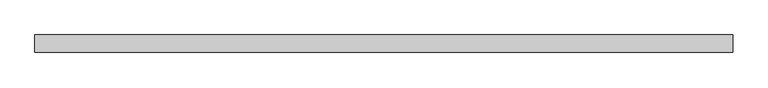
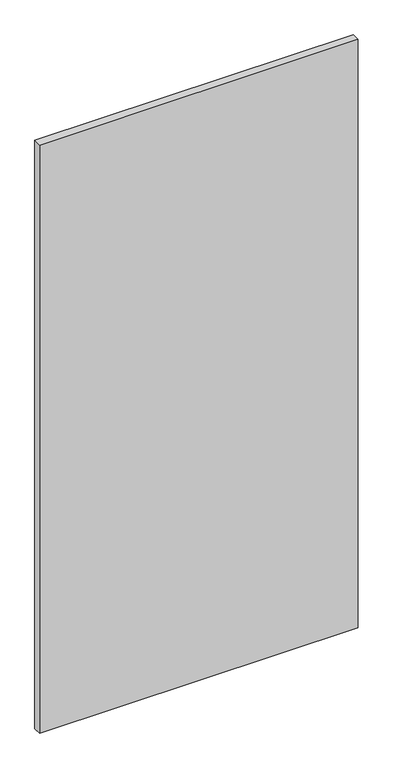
"""IFC4 building model written with IfcOpenShell, lengths in millimetres: plate geometry, Системная панель : С остеклением."""

import ifcopenshell
import ifcopenshell.guid

model = None  # the IFC model being written
_history = None  # IfcOwnerHistory: only IFC2X3 demands one
_inside = {}  # id of a spatial element -> (the spatial element, [elements in it])
_under = {}  # id of a project, library or spatial element -> (it, [spatial elements below it])
_declared = {}  # id of a project -> (the project, [libraries it declares])
_typed = {}  # id of a type object -> (the type object, [elements of that type])
_made_of = {}  # id of a material, layer set ... -> (it, [elements and type objects made of it])


def new_model(schema):
    """Start an empty IFC model of exactly this schema.

    Asked for "IFC4X3", IfcOpenShell would pick the latest addendum, in which some entities
    have other attributes; the version numbers below select the first issue.
    IFC2X3 requires an IfcOwnerHistory on every rooted entity: one is made here for all.
    """
    global model, _history
    if schema == "IFC4X3":
        model = ifcopenshell.file(schema_version=(4, 3, 0, 0))
    else:
        model = ifcopenshell.file(schema=schema)
    _inside.clear()
    _under.clear()
    _declared.clear()
    _typed.clear()
    _made_of.clear()
    _history = None
    if model.schema == "IFC2X3":
        org = make("IfcOrganization", Name="unknown")
        user = make(
            "IfcPersonAndOrganization",
            ThePerson=make("IfcPerson", FamilyName="unknown"),
            TheOrganization=org,
        )
        app = make(
            "IfcApplication",
            ApplicationDeveloper=org,
            Version="unknown",
            ApplicationFullName="unknown",
            ApplicationIdentifier="unknown",
        )
        _history = make(
            "IfcOwnerHistory",
            OwningUser=user,
            OwningApplication=app,
            ChangeAction="ADDED",
            CreationDate=0,
        )
    return model


def make(cls, **values):
    """One entity of the class cls with the attributes given. An attribute that is None is left unset."""
    return model.create_entity(
        cls, **{name: value for name, value in values.items() if value is not None}
    )


def rooted(cls, **values):
    """An entity with a GlobalId (a new one), such as an element, a storey or a relation."""
    return make(cls, GlobalId=ifcopenshell.guid.new(), OwnerHistory=_history, **values)


def si_unit(unit_type, name, prefix=None):
    """IfcSIUnit, for example si_unit("LENGTHUNIT", "METRE", prefix="MILLI")."""
    return make("IfcSIUnit", UnitType=unit_type, Prefix=prefix, Name=name)


def assignment(units):
    """IfcUnitAssignment: the units of a project."""
    return None if units is None else make("IfcUnitAssignment", Units=units)


def point(xyz):
    """IfcCartesianPoint."""
    return None if xyz is None else make("IfcCartesianPoint", Coordinates=xyz)


def direction(xyz):
    """IfcDirection."""
    return None if xyz is None else make("IfcDirection", DirectionRatios=xyz)


def frame(location, z_axis=None, x_axis=None):
    """IfcAxis2Placement3D, a coordinate frame: its origin and axes. An axis left out is left unset."""
    return make(
        "IfcAxis2Placement3D",
        Location=point(location),
        Axis=direction(z_axis),
        RefDirection=direction(x_axis),
    )


def origin():
    """The frame at (0, 0, 0) with its axes left unset."""
    return frame((0.0, 0.0, 0.0))


def origin_with_axes():
    """The frame at (0, 0, 0) with the z axis (0, 0, 1) and the x axis (1, 0, 0) written out."""
    return frame((0.0, 0.0, 0.0), z_axis=(0.0, 0.0, 1.0), x_axis=(1.0, 0.0, 0.0))


def place(relative_to, where):
    """IfcLocalPlacement: puts the frame where relative to a parent placement (None: the world)."""
    return make(
        "IfcLocalPlacement", PlacementRelTo=relative_to, RelativePlacement=where
    )


def context(
    kind, dimensions, precision=None, world=None, true_north=None, identifier=None
):
    """IfcGeometricRepresentationContext, for example the 3D "Model" context."""
    return make(
        "IfcGeometricRepresentationContext",
        ContextIdentifier=identifier,
        ContextType=kind,
        CoordinateSpaceDimension=dimensions,
        Precision=precision,
        WorldCoordinateSystem=world,
        TrueNorth=true_north,
    )


def project(units=None, contexts=None):
    """IfcProject with its units and contexts."""
    return rooted(
        "IfcProject",
        Name="project",
        RepresentationContexts=contexts,
        UnitsInContext=assignment(units),
    )


def spatial(cls, under=None, at=None, **own):
    """A site, building, storey or space (cls), placed at a placement, below another one or the project."""
    s = rooted(cls, ObjectPlacement=at, **own)
    if under is not None:
        _under.setdefault(under.id(), (under, []))[1].append(s)
    return s


def polyline(points):
    """IfcPolyline through the points."""
    return make("IfcPolyline", Points=[point(p) for p in points])


def outline(outer, holes=None, kind="AREA"):
    """IfcArbitraryClosedProfileDef: a profile drawn as a closed curve; with holes, ...WithVoids."""
    if holes is None:
        return make("IfcArbitraryClosedProfileDef", ProfileType=kind, OuterCurve=outer)
    return make(
        "IfcArbitraryProfileDefWithVoids",
        ProfileType=kind,
        OuterCurve=outer,
        InnerCurves=holes,
    )


def extrude(swept, where, along, depth):
    """IfcExtrudedAreaSolid: the profile swept, set in the frame where, extruded along a direction by depth."""
    return make(
        "IfcExtrudedAreaSolid",
        SweptArea=swept,
        Position=where,
        ExtrudedDirection=direction(along),
        Depth=depth,
    )


def shape(context_of_items, identifier, shape_type, items):
    """IfcShapeRepresentation: the items that make up one representation, for example the "Body"."""
    return make(
        "IfcShapeRepresentation",
        ContextOfItems=context_of_items,
        RepresentationIdentifier=identifier,
        RepresentationType=shape_type,
        Items=items,
    )


def source(mapping_origin, context_of_items, identifier, shape_type, items):
    """IfcRepresentationMap: a shape defined once, which mapped items show again and again."""
    return make(
        "IfcRepresentationMap",
        MappingOrigin=mapping_origin,
        MappedRepresentation=shape(context_of_items, identifier, shape_type, items),
    )


def transform(
    local_origin,
    x_axis=None,
    y_axis=None,
    z_axis=None,
    scale=None,
    scale2=None,
    scale3=None,
    uniform=True,
):
    """IfcCartesianTransformationOperator3D, or its non-uniform kind. x_axis, y_axis, z_axis: its Axis1, 2, 3."""
    if uniform:
        return make(
            "IfcCartesianTransformationOperator3D",
            Axis1=direction(x_axis),
            Axis2=direction(y_axis),
            LocalOrigin=point(local_origin),
            Scale=scale,
            Axis3=direction(z_axis),
        )
    return make(
        "IfcCartesianTransformationOperator3DnonUniform",
        Axis1=direction(x_axis),
        Axis2=direction(y_axis),
        LocalOrigin=point(local_origin),
        Scale=scale,
        Axis3=direction(z_axis),
        Scale2=scale2,
        Scale3=scale3,
    )


def mapped(mapping_source, mapping_target):
    """IfcMappedItem: shows the shape of a source again, moved by a transform."""
    return make(
        "IfcMappedItem", MappingSource=mapping_source, MappingTarget=mapping_target
    )


def made_of(thing, what):
    """Note that an element or type object is made of a material, layer set ...; save() writes the relation."""
    if what is not None:
        _made_of.setdefault(what.id(), (what, []))[1].append(thing)
    return thing


def element(
    cls,
    number,
    at=None,
    inside=None,
    cuts=None,
    type_object=None,
    material=None,
    context=None,
    identifier="Body",
    shape_type=None,
    held_by="IfcProductDefinitionShape",
    body=None,
    shapes=None,
    **own,
):
    """One element of the class cls, such as IfcWall. Its Tag is "e" and its number.

    at: its placement. inside: the storey or other place that contains it. cuts: it is an
    opening in that element (IfcRelVoidsElement). A single representation is given by context,
    identifier, shape_type and body (its items); several are given by shapes. held_by: the class
    of the entity that holds the representations. save() writes the other relations.
    """
    e = rooted(cls, Tag="e%d" % number, ObjectPlacement=at, **own)
    if body is not None:
        shapes = [shape(context, identifier, shape_type, body)]
    if shapes is not None:
        e.Representation = make(held_by, Representations=shapes)
    if inside is not None:
        _inside.setdefault(inside.id(), (inside, []))[1].append(e)
    if cuts is not None:
        rooted(
            "IfcRelVoidsElement", RelatingBuildingElement=cuts, RelatedOpeningElement=e
        )
    if type_object is not None:
        _typed.setdefault(type_object.id(), (type_object, []))[1].append(e)
    return made_of(e, material)


def aggregate(whole, parts):
    """IfcRelAggregates: a whole, such as a stair, and the parts it consists of."""
    return rooted("IfcRelAggregates", RelatingObject=whole, RelatedObjects=parts)


def save(model, path):
    """Write the relations noted so far, then the file.

    IfcRelAggregates (storeys below a building ...), IfcRelContainedInSpatialStructure (elements
    in a storey), IfcRelDefinesByType, IfcRelAssociatesMaterial and IfcRelDeclares: one each for
    every whole, place, type object, material and project.
    """
    for whole, parts in _under.values():
        aggregate(whole, parts)
    for where, things in _inside.values():
        rooted(
            "IfcRelContainedInSpatialStructure",
            RelatedElements=things,
            RelatingStructure=where,
        )
    for kind, things in _typed.values():
        rooted("IfcRelDefinesByType", RelatedObjects=things, RelatingType=kind)
    for what, things in _made_of.values():
        rooted("IfcRelAssociatesMaterial", RelatedObjects=things, RelatingMaterial=what)
    for by, libraries in _declared.values():
        rooted("IfcRelDeclares", RelatingContext=by, RelatedDefinitions=libraries)
    model.write(path)


def plate_69423b45(model_context):
    return source(origin(), model_context, "Body", "SweptSolid", [
        extrude(outline(polyline([(500.0, 24.5), (-500.0, 24.5), (-500.0, 49.5), (500.0, 49.5), (500.0, 24.5)])), origin_with_axes(), (0.0, 0.0, 1.0), 1950.0),
    ])


if __name__ == "__main__":
    model = new_model("IFC4")
    model_context = context("Model", 3, world=origin())
    ifc_project = project(units=[si_unit("LENGTHUNIT", "METRE", prefix="MILLI")], contexts=[model_context])
    site = spatial("IfcSite", under=ifc_project)
    building = spatial("IfcBuilding", under=site)
    placement = place(None, origin())
    plate_shape = plate_69423b45(model_context)
    element("IfcPlate", 1, ObjectType="Системная панель : С остеклением", at=placement, inside=building, context=model_context, shape_type="MappedRepresentation", body=[
        mapped(plate_shape, transform((0.0, 0.0, 0.0), x_axis=(1.0, 0.0, 0.0), y_axis=(0.0, 1.0, 0.0), z_axis=(0.0, 0.0, 1.0))),
    ])
    save(model, "model.ifc")
